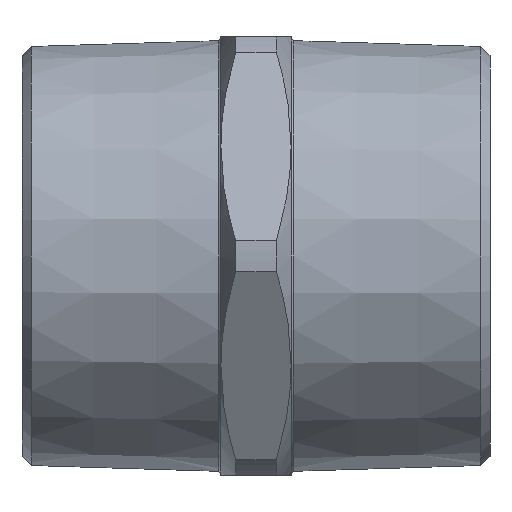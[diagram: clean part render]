
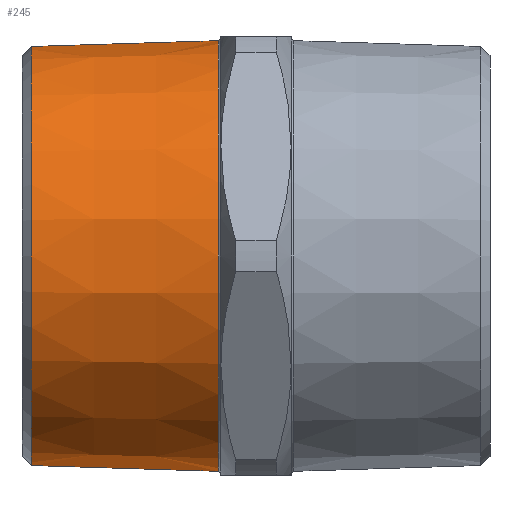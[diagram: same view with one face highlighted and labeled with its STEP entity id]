
A CAD part, front view. The second image highlights one B-rep face of the part: STEP entity #245.
In plain terms, the highlighted conical face has half-angle 1.79 degrees and reference radius 35.808 mm.
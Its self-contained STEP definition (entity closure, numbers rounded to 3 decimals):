
#27 = VECTOR ( 'NONE', #875, 1000. ) ;
#134 = AXIS2_PLACEMENT_3D ( 'NONE', #1394, #1395, #1399 ) ;
#160 = AXIS2_PLACEMENT_3D ( 'NONE', #1054, #1052, #1051 ) ;
#177 = AXIS2_PLACEMENT_3D ( 'NONE', #930, #929, #928 ) ;
#245 = ADVANCED_FACE ( 'NONE', ( #405 ), #396, .T. ) ;
#318 = CIRCLE ( 'NONE', #177, 36.806 ) ;
#343 = CIRCLE ( 'NONE', #160, 35.808 ) ;
#396 = CONICAL_SURFACE ( 'NONE', #134, 35.808, 0.031 ) ;
#405 = FACE_OUTER_BOUND ( 'NONE', #544, .T. ) ;
#523 = ORIENTED_EDGE ( 'NONE', *, *, #1587, .T. ) ;
#524 = ORIENTED_EDGE ( 'NONE', *, *, #1610, .T. ) ;
#526 = ORIENTED_EDGE ( 'NONE', *, *, #1608, .F. ) ;
#531 = ORIENTED_EDGE ( 'NONE', *, *, #1568, .T. ) ;
#544 = EDGE_LOOP ( 'NONE', ( #526, #531, #524, #523 ) ) ;
#714 = VERTEX_POINT ( 'NONE', #1292 ) ;
#721 = VERTEX_POINT ( 'NONE', #1282 ) ;
#731 = VERTEX_POINT ( 'NONE', #1269 ) ;
#736 = VERTEX_POINT ( 'NONE', #1263 ) ;
#868 = DIRECTION ( 'NONE',  ( 1., 0., 0.031 ) ) ;
#869 = CARTESIAN_POINT ( 'NONE',  ( -78.4, 0., 35.808 ) ) ;
#874 = CARTESIAN_POINT ( 'NONE',  ( -78.4, 0., -35.808 ) ) ;
#875 = DIRECTION ( 'NONE',  ( 1., 0., -0.031 ) ) ;
#928 = DIRECTION ( 'NONE',  ( 0., 0., -1. ) ) ;
#929 = DIRECTION ( 'NONE',  ( -1., 0., 0. ) ) ;
#930 = CARTESIAN_POINT ( 'NONE',  ( -46.484, 0., 0. ) ) ;
#1051 = DIRECTION ( 'NONE',  ( 0., 0., -1. ) ) ;
#1052 = DIRECTION ( 'NONE',  ( 1., 0., 0. ) ) ;
#1054 = CARTESIAN_POINT ( 'NONE',  ( -78.4, 0., 0. ) ) ;
#1263 = CARTESIAN_POINT ( 'NONE',  ( -46.484, 0., 36.806 ) ) ;
#1269 = CARTESIAN_POINT ( 'NONE',  ( -46.484, 0., -36.806 ) ) ;
#1282 = CARTESIAN_POINT ( 'NONE',  ( -78.4, 0., -35.808 ) ) ;
#1292 = CARTESIAN_POINT ( 'NONE',  ( -78.4, 0., 35.808 ) ) ;
#1394 = CARTESIAN_POINT ( 'NONE',  ( -78.4, 0., 0. ) ) ;
#1395 = DIRECTION ( 'NONE',  ( 1., 0., 0. ) ) ;
#1399 = DIRECTION ( 'NONE',  ( 0., 0., -1. ) ) ;
#1568 = EDGE_CURVE ( 'NONE', #714, #721, #343, .T. ) ;
#1587 = EDGE_CURVE ( 'NONE', #731, #736, #318, .T. ) ;
#1608 = EDGE_CURVE ( 'NONE', #714, #736, #1635, .T. ) ;
#1610 = EDGE_CURVE ( 'NONE', #721, #731, #1629, .T. ) ;
#1629 = LINE ( 'NONE', #874, #27 ) ;
#1635 = LINE ( 'NONE', #869, #1637 ) ;
#1637 = VECTOR ( 'NONE', #868, 1000. ) ;
